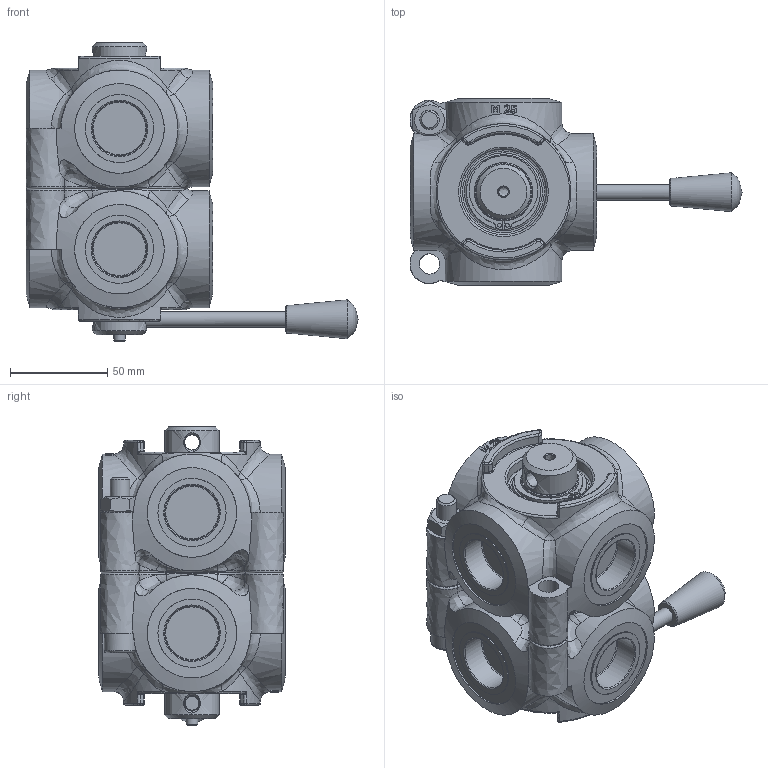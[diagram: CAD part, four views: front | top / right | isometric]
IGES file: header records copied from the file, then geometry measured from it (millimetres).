
Global section: file name: No Iges File Name specified; native system: Autodesk Inventor 2013; preprocessor: AutoDesk Inventor Iges Exporter R2013; author: christian.scardovi; date: 20240830.083819; units: millimetre
Bounding box: 170.5 x 96 x 153.25 mm (x, y, z)
Volume: 837700.1 mm3; surface area: 91872.7 mm2
Topology: 1 solids, 1 shells, 562 faces, 1349 edges, 820 vertices
Faces by surface type: bspline 562
